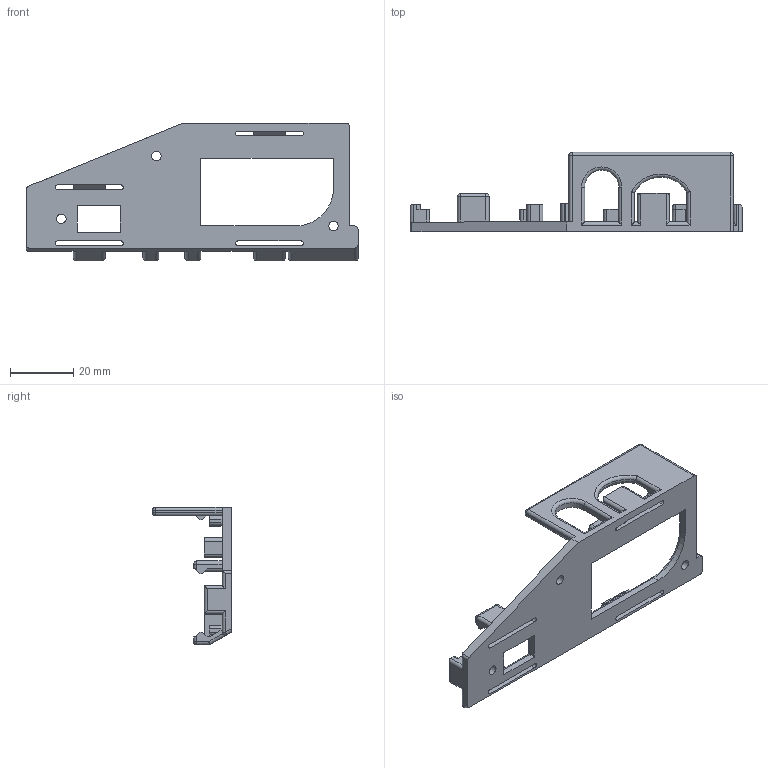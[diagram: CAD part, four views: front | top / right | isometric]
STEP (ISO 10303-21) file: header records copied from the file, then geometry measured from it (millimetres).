
FILE_DESCRIPTION(/* description */ (''),/* implementation_level */ '2;1');
FILE_NAME(/* name */ 'rESCue pcb clamp v6.step',/* time_stamp */ '2023-01-25T20:15:13+01:00',/* author */ (''),/* organization */ (''),/* preprocessor_version */ 'ST-DEVELOPER v19.2',/* originating_system */ 'Autodesk Translation Framework v11.17.0.187',/* authorisation */ '');
FILE_SCHEMA (('AUTOMOTIVE_DESIGN { 1 0 10303 214 3 1 1 }'));
Length unit declared in the file: millimetre
Products named in the file (1): rESCue pcb clamp hertekend
Bounding box: 105 x 25 x 43.5 mm (x, y, z)
Volume: 11961 mm3; surface area: 10903.8 mm2
Topology: 1 solids, 1 shells, 301 faces, 797 edges, 497 vertices
Faces by surface type: cylinder 143, plane 128, torus 14, sphere 14, bspline 2
Full cylindrical faces by diameter (mm): 3 x3
Entity records: 9464 total; most frequent: CARTESIAN_POINT 1757, DIRECTION 1652, ORIENTED_EDGE 1594, EDGE_CURVE 797, AXIS2_PLACEMENT_3D 572, LINE 508, VECTOR 508, VERTEX_POINT 497
